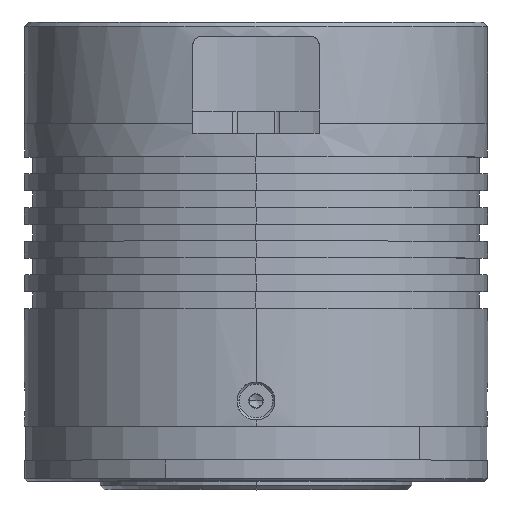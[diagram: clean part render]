
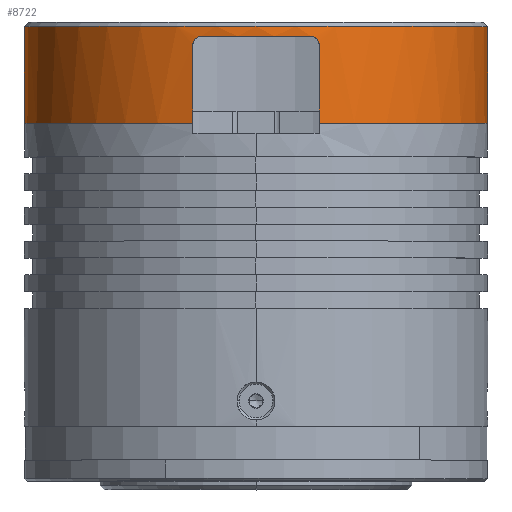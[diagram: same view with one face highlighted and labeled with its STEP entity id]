
A CAD part, top view. The second image highlights one B-rep face of the part: STEP entity #8722.
In plain terms, the highlighted cylindrical face has radius 27.5 mm (diameter 55 mm), a partial arc.
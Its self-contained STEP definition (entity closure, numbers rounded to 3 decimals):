
#82 = CARTESIAN_POINT ( 'NONE',  ( 6.5, 1.7, 26.721 ) ) ;
#331 = ORIENTED_EDGE ( 'NONE', *, *, #13548, .F. ) ;
#385 = DIRECTION ( 'NONE',  ( 0., -1., 0. ) ) ;
#450 = CARTESIAN_POINT ( 'NONE',  ( 7.295, 2.079, 26.515 ) ) ;
#561 = VECTOR ( 'NONE', #18025, 1000. ) ;
#683 = EDGE_CURVE ( 'NONE', #9696, #3225, #12116, .T. ) ;
#697 = VERTEX_POINT ( 'NONE', #82 ) ;
#698 = DIRECTION ( 'NONE',  ( 1., 0., 0. ) ) ;
#1259 = CIRCLE ( 'NONE', #16657, 27.5 ) ;
#1880 = CARTESIAN_POINT ( 'NONE',  ( 7.5, 12., 26.458 ) ) ;
#2080 = VECTOR ( 'NONE', #10576, 1000. ) ;
#2110 = AXIS2_PLACEMENT_3D ( 'NONE', #15709, #3717, #11445 ) ;
#2460 = CARTESIAN_POINT ( 'NONE',  ( -27.5, 12., 0. ) ) ;
#2663 = CARTESIAN_POINT ( 'NONE',  ( -6.998, 1.823, 26.595 ) ) ;
#2936 = ORIENTED_EDGE ( 'NONE', *, *, #17619, .T. ) ;
#3066 = CARTESIAN_POINT ( 'NONE',  ( 7.473, 2.434, 26.465 ) ) ;
#3177 = CARTESIAN_POINT ( 'NONE',  ( 7.5, 2.7, 26.458 ) ) ;
#3199 = VERTEX_POINT ( 'NONE', #3177 ) ;
#3225 = VERTEX_POINT ( 'NONE', #17856 ) ;
#3270 = VERTEX_POINT ( 'NONE', #4519 ) ;
#3596 = VERTEX_POINT ( 'NONE', #6848 ) ;
#3599 = CARTESIAN_POINT ( 'NONE',  ( 7.37, 2.19, 26.494 ) ) ;
#3717 = DIRECTION ( 'NONE',  ( 0., 1., 0. ) ) ;
#3954 = AXIS2_PLACEMENT_3D ( 'NONE', #14296, #12552, #698 ) ;
#4471 = CARTESIAN_POINT ( 'NONE',  ( -6.758, 1.725, 26.657 ) ) ;
#4519 = CARTESIAN_POINT ( 'NONE',  ( 7.5, 12., 26.458 ) ) ;
#4532 = DIRECTION ( 'NONE',  ( 1., 0., 0. ) ) ;
#4573 = VECTOR ( 'NONE', #18086, 1000. ) ;
#4776 = LINE ( 'NONE', #17820, #561 ) ;
#4832 = ORIENTED_EDGE ( 'NONE', *, *, #17561, .T. ) ;
#4924 = FACE_OUTER_BOUND ( 'NONE', #6531, .T. ) ;
#4944 = EDGE_CURVE ( 'NONE', #3199, #697, #17702, .T. ) ;
#5087 = CARTESIAN_POINT ( 'NONE',  ( -7.5, 12., 26.458 ) ) ;
#5125 = ORIENTED_EDGE ( 'NONE', *, *, #14079, .T. ) ;
#5159 = CARTESIAN_POINT ( 'NONE',  ( -6.5, 1.7, 26.721 ) ) ;
#5822 = CARTESIAN_POINT ( 'NONE',  ( -7.109, 1.896, 26.566 ) ) ;
#6412 = B_SPLINE_CURVE_WITH_KNOTS ( 'NONE', 3,
 ( #5159, #10081, #4471, #2663, #5822, #18894, #10270, #17436 ),
 .UNSPECIFIED., .F., .F.,
 ( 4, 2, 2, 4 ),
 ( 0., 0., 0.001, 0.002 ),
 .UNSPECIFIED. ) ;
#6446 = EDGE_CURVE ( 'NONE', #6473, #15663, #15319, .T. ) ;
#6473 = VERTEX_POINT ( 'NONE', #5087 ) ;
#6531 = EDGE_LOOP ( 'NONE', ( #12103, #8128, #4832, #331, #5125, #6584, #16438, #6962, #2936, #16530 ) ) ;
#6584 = ORIENTED_EDGE ( 'NONE', *, *, #16318, .F. ) ;
#6610 = CARTESIAN_POINT ( 'NONE',  ( 6.5, 1.7, 26.721 ) ) ;
#6723 = CARTESIAN_POINT ( 'NONE',  ( -7.5, 12., 26.458 ) ) ;
#6848 = CARTESIAN_POINT ( 'NONE',  ( -6.5, 1.7, 26.721 ) ) ;
#6962 = ORIENTED_EDGE ( 'NONE', *, *, #12877, .T. ) ;
#7142 = DIRECTION ( 'NONE',  ( 0., -1., 0. ) ) ;
#7245 = CARTESIAN_POINT ( 'NONE',  ( 27.5, 12., 0. ) ) ;
#7264 = CARTESIAN_POINT ( 'NONE',  ( -7.5, 2.7, 26.458 ) ) ;
#7317 = DIRECTION ( 'NONE',  ( 0., 0., 1. ) ) ;
#7720 = CYLINDRICAL_SURFACE ( 'NONE', #12409, 27.5 ) ;
#8128 = ORIENTED_EDGE ( 'NONE', *, *, #683, .T. ) ;
#8722 = ADVANCED_FACE ( 'NONE', ( #4924 ), #7720, .T. ) ;
#9087 = EDGE_CURVE ( 'NONE', #6473, #9696, #10568, .T. ) ;
#9696 = VERTEX_POINT ( 'NONE', #2460 ) ;
#9917 = CARTESIAN_POINT ( 'NONE',  ( 27.5, 0.5, 0. ) ) ;
#10081 = CARTESIAN_POINT ( 'NONE',  ( -6.63, 1.7, 26.689 ) ) ;
#10270 = CARTESIAN_POINT ( 'NONE',  ( -7.5, 2.431, 26.458 ) ) ;
#10568 = CIRCLE ( 'NONE', #17376, 27.5 ) ;
#10576 = DIRECTION ( 'NONE',  ( 0., -1., 0. ) ) ;
#10636 = LINE ( 'NONE', #1880, #4573 ) ;
#10750 = CARTESIAN_POINT ( 'NONE',  ( 7.109, 1.896, 26.565 ) ) ;
#10810 = CARTESIAN_POINT ( 'NONE',  ( 0., 12., 0. ) ) ;
#10979 = VERTEX_POINT ( 'NONE', #9917 ) ;
#11035 = CARTESIAN_POINT ( 'NONE',  ( 7.5, 2.7, 26.458 ) ) ;
#11345 = VERTEX_POINT ( 'NONE', #7245 ) ;
#11445 = DIRECTION ( 'NONE',  ( 1., 0., 0. ) ) ;
#11940 = VECTOR ( 'NONE', #18629, 1000. ) ;
#11951 = CIRCLE ( 'NONE', #2110, 27.5 ) ;
#12103 = ORIENTED_EDGE ( 'NONE', *, *, #9087, .T. ) ;
#12116 = LINE ( 'NONE', #16471, #2080 ) ;
#12409 = AXIS2_PLACEMENT_3D ( 'NONE', #10810, #16331, #4532 ) ;
#12552 = DIRECTION ( 'NONE',  ( 0., -1., 0. ) ) ;
#12877 = EDGE_CURVE ( 'NONE', #697, #3596, #1259, .T. ) ;
#13548 = EDGE_CURVE ( 'NONE', #11345, #10979, #4776, .T. ) ;
#13653 = CARTESIAN_POINT ( 'NONE',  ( 7.5, 2.566, 26.458 ) ) ;
#14079 = EDGE_CURVE ( 'NONE', #11345, #3270, #15985, .T. ) ;
#14296 = CARTESIAN_POINT ( 'NONE',  ( 0., 12., 0. ) ) ;
#15146 = CARTESIAN_POINT ( 'NONE',  ( 0., 12., 0. ) ) ;
#15298 = CARTESIAN_POINT ( 'NONE',  ( 6.998, 1.823, 26.595 ) ) ;
#15319 = LINE ( 'NONE', #6723, #11940 ) ;
#15399 = CARTESIAN_POINT ( 'NONE',  ( 6.63, 1.7, 26.689 ) ) ;
#15663 = VERTEX_POINT ( 'NONE', #7264 ) ;
#15709 = CARTESIAN_POINT ( 'NONE',  ( 0., 0.5, 0. ) ) ;
#15985 = CIRCLE ( 'NONE', #3954, 27.5 ) ;
#16318 = EDGE_CURVE ( 'NONE', #3199, #3270, #10636, .T. ) ;
#16331 = DIRECTION ( 'NONE',  ( 0., -1., 0. ) ) ;
#16438 = ORIENTED_EDGE ( 'NONE', *, *, #4944, .T. ) ;
#16471 = CARTESIAN_POINT ( 'NONE',  ( -27.5, 12., 0. ) ) ;
#16530 = ORIENTED_EDGE ( 'NONE', *, *, #6446, .F. ) ;
#16657 = AXIS2_PLACEMENT_3D ( 'NONE', #17470, #7142, #7317 ) ;
#17376 = AXIS2_PLACEMENT_3D ( 'NONE', #15146, #385, #18044 ) ;
#17436 = CARTESIAN_POINT ( 'NONE',  ( -7.5, 2.7, 26.458 ) ) ;
#17470 = CARTESIAN_POINT ( 'NONE',  ( 0., 1.7, 0. ) ) ;
#17561 = EDGE_CURVE ( 'NONE', #3225, #10979, #11951, .T. ) ;
#17619 = EDGE_CURVE ( 'NONE', #3596, #15663, #6412, .T. ) ;
#17702 = B_SPLINE_CURVE_WITH_KNOTS ( 'NONE', 3,
 ( #11035, #13653, #3066, #3599, #450, #10750, #15298, #17747, #15399, #6610 ),
 .UNSPECIFIED., .F., .F.,
 ( 4, 2, 2, 2, 4 ),
 ( 0., 0., 0.001, 0.001, 0.002 ),
 .UNSPECIFIED. ) ;
#17747 = CARTESIAN_POINT ( 'NONE',  ( 6.76, 1.726, 26.657 ) ) ;
#17820 = CARTESIAN_POINT ( 'NONE',  ( 27.5, 12., 0. ) ) ;
#17856 = CARTESIAN_POINT ( 'NONE',  ( -27.5, 0.5, 0. ) ) ;
#18025 = DIRECTION ( 'NONE',  ( 0., -1., 0. ) ) ;
#18044 = DIRECTION ( 'NONE',  ( 1., 0., 0. ) ) ;
#18086 = DIRECTION ( 'NONE',  ( 0., 1., 0. ) ) ;
#18629 = DIRECTION ( 'NONE',  ( 0., -1., 0. ) ) ;
#18894 = CARTESIAN_POINT ( 'NONE',  ( -7.387, 2.17, 26.49 ) ) ;
